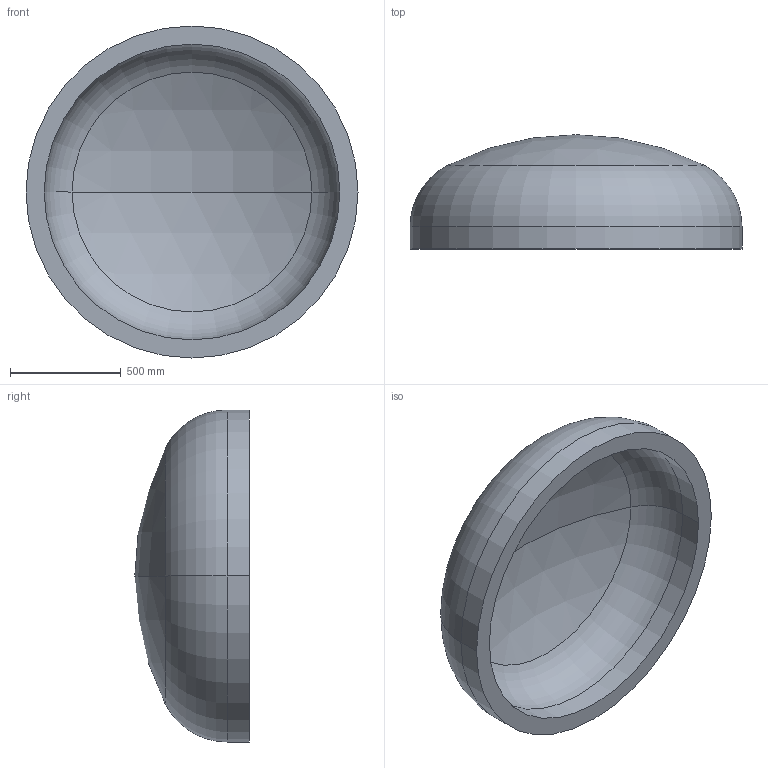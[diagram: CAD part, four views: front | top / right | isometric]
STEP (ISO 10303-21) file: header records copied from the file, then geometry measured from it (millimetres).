
FILE_DESCRIPTION (( 'STEP AP203' ), '1' );
FILE_NAME ('DIN 28013 Korbbogenform_-_Boden DIN 28013 - 1500 x 100 - I - s=82.step', '2016-07-01T10:54:45', ( '' ), ( '' ), 'SwSTEP 2.0', 'SolidWorks 2013', '' );
FILE_SCHEMA (( 'CONFIG_CONTROL_DESIGN' ));
Length unit declared in the file: millimetre
Products named in the file (1): DIN 28013 Korbbogenform_-_Boden DIN 28013 - 1500 x 100 - I - s=82
Bounding box: 1500 x 516.52 x 1500 mm (x, y, z)
Volume: 223490467 mm3; surface area: 5830360.2 mm2
Topology: 1 solids, 1 shells, 13 faces, 24 edges, 14 vertices
Faces by surface type: torus 4, cylinder 4, sphere 4, plane 1
Entity records: 407 total; most frequent: DIRECTION 72, CARTESIAN_POINT 52, ORIENTED_EDGE 48, AXIS2_PLACEMENT_3D 34, EDGE_CURVE 24, CIRCLE 20, VERTEX_POINT 14, EDGE_LOOP 14
